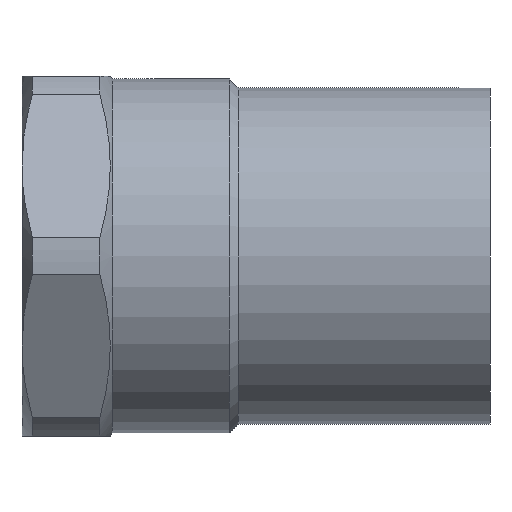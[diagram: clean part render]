
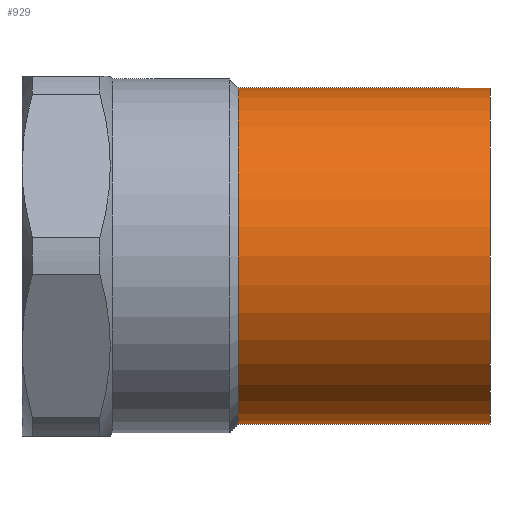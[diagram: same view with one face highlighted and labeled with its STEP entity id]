
A CAD part, front view. The second image highlights one B-rep face of the part: STEP entity #929.
In plain terms, the highlighted cylindrical face has radius 14 mm (diameter 28 mm), a full revolution.
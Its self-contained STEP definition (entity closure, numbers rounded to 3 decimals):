
#895=CARTESIAN_POINT('',(18.,14.,0.0));
#896=VERTEX_POINT('',#895);
#897=CARTESIAN_POINT('',(18.,0.,0.0));
#898=DIRECTION('',(1.0,0.0,0.0));
#899=DIRECTION('',(0.0,1.0,0.0));
#900=AXIS2_PLACEMENT_3D('',#897,#898,#899);
#901=CIRCLE('',#900,14.);
#902=EDGE_CURVE('',#896,#896,#901,.T.);
#910=CARTESIAN_POINT('',(28.5,0.,0.0));
#911=DIRECTION('',(1.0,0.,0.0));
#912=DIRECTION('',(0.0,1.0,0.0));
#913=AXIS2_PLACEMENT_3D('',#910,#911,#912);
#914=CYLINDRICAL_SURFACE('',#913,14.);
#915=CARTESIAN_POINT('',(39.0,14.,0.0));
#916=VERTEX_POINT('',#915);
#917=CARTESIAN_POINT('',(39.,0.,0.0));
#918=DIRECTION('',(1.0,0.0,0.0));
#919=DIRECTION('',(0.0,1.0,0.0));
#920=AXIS2_PLACEMENT_3D('',#917,#918,#919);
#921=CIRCLE('',#920,14.);
#922=EDGE_CURVE('',#916,#916,#921,.T.);
#923=ORIENTED_EDGE('',*,*,#922,.F.);
#924=EDGE_LOOP('',(#923));
#925=FACE_OUTER_BOUND('',#924,.T.);
#926=ORIENTED_EDGE('',*,*,#902,.T.);
#927=EDGE_LOOP('',(#926));
#928=FACE_BOUND('',#927,.T.);
#929=ADVANCED_FACE('',(#925,#928),#914,.T.);
